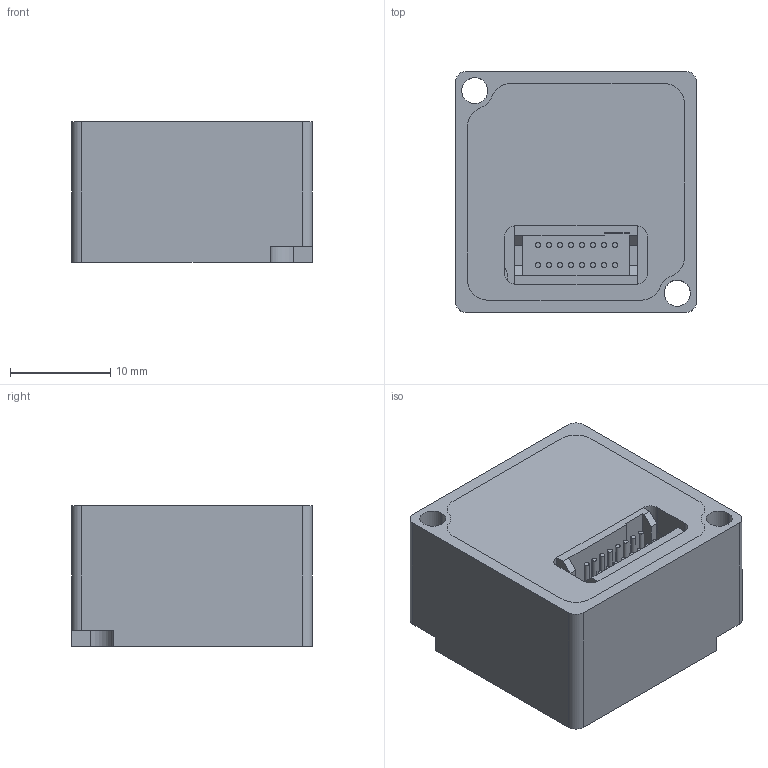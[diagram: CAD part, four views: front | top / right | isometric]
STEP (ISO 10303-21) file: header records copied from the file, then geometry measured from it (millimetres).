
FILE_DESCRIPTION (( 'STEP AP203' ), '1' );
FILE_NAME ('HI71-3D.STEP', '2025-10-27T00:58:16', ( '' ), ( '' ), 'SwSTEP 2.0', 'SolidWorks 2016', '' );
FILE_SCHEMA (( 'CONFIG_CONTROL_DESIGN' ));
Length unit declared in the file: millimetre
Products named in the file (1): HI71-3D
Bounding box: 24 x 24 x 14 mm (x, y, z)
Volume: 3987.5 mm3; surface area: 5575.1 mm2
Topology: 3 solids, 3 shells, 198 faces, 493 edges, 317 vertices
Faces by surface type: plane 104, cylinder 86, cone 8
Entity records: 5961 total; most frequent: DIRECTION 1066, CARTESIAN_POINT 1005, ORIENTED_EDGE 978, EDGE_CURVE 489, AXIS2_PLACEMENT_3D 378, VERTEX_POINT 317, VECTOR 310, LINE 310
